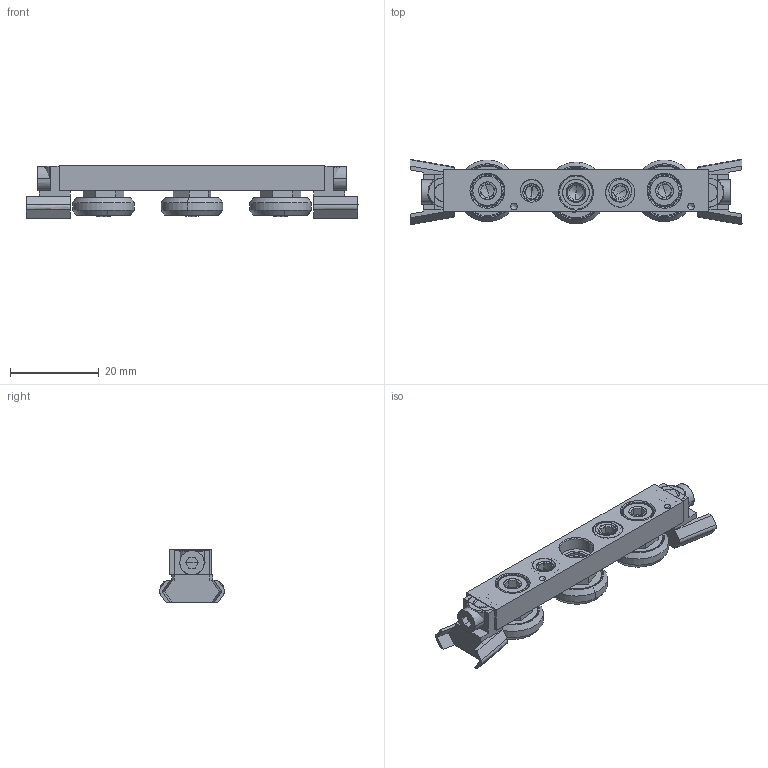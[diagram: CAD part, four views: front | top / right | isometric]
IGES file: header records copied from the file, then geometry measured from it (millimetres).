
Start section: SolidWorks IGES file using analytic representation for surfaces
Global section: file name: E:\J-00018 - L1918-L1963 LCompact Rail\L1918_v2\L1918.CSW18_v2\L1918.CSW18_IGES\L1918.CSW18-060-2RST.igs; native system: SolidWorks 2017; preprocessor: SolidWorks 2017; author: liam_; date: 190629.230142; units: millimetre
Bounding box: 75 x 14.8 x 11.95 mm (x, y, z)
Surface area: 6662.6 mm2 (no closed solid volume)
Topology: 0 solids, 0 shells, 429 faces, 5168 edges, 5138 vertices
Faces by surface type: bspline 263, revolution 166
